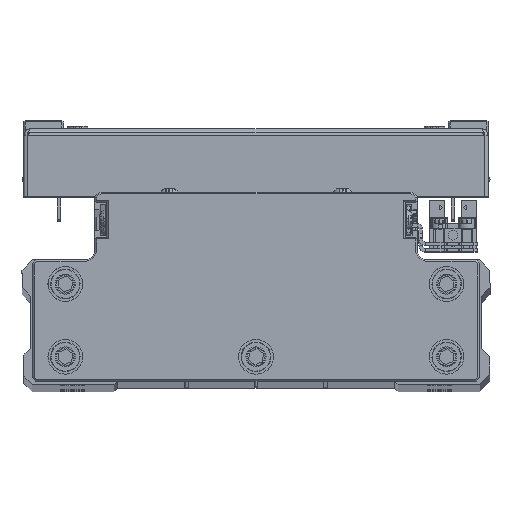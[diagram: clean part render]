
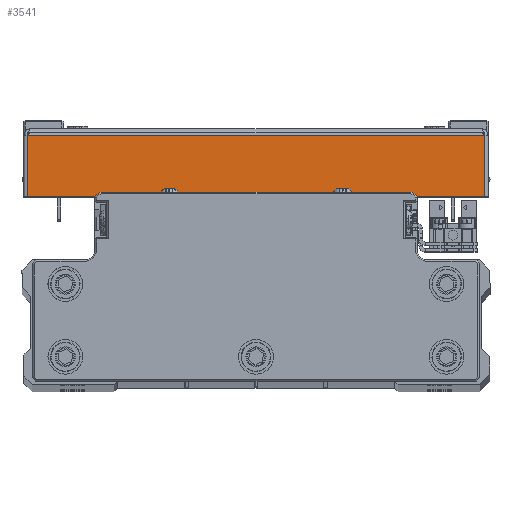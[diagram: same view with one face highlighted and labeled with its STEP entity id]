
A CAD part, top view. The second image highlights one B-rep face of the part: STEP entity #3541.
In plain terms, the highlighted planar face has unit normal (0, 0, 1) as drawn and (1, 0, 0) by its records, which use the part's own axes.
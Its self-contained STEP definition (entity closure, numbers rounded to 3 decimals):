
#788 = VERTEX_POINT ( 'NONE', #17855 ) ;
#1220 = EDGE_CURVE ( 'NONE', #35216, #788, #14770, .T. ) ;
#2210 = LINE ( 'NONE', #16131, #43813 ) ;
#3541 = ADVANCED_FACE ( 'NONE', ( #30365 ), #44288, .F. ) ;
#3700 = CARTESIAN_POINT ( 'NONE',  ( 100., 1., 65.929 ) ) ;
#5599 = ORIENTED_EDGE ( 'NONE', *, *, #6635, .F. ) ;
#6635 = EDGE_CURVE ( 'NONE', #35216, #25040, #2210, .T. ) ;
#8226 = VECTOR ( 'NONE', #36040, 1000. ) ;
#11672 = LINE ( 'NONE', #22147, #8226 ) ;
#13033 = CARTESIAN_POINT ( 'NONE',  ( 100., 0., 0. ) ) ;
#13299 = CARTESIAN_POINT ( 'NONE',  ( 100., 1., -65.929 ) ) ;
#14770 = LINE ( 'NONE', #28687, #24293 ) ;
#16131 = CARTESIAN_POINT ( 'NONE',  ( 100., 1., 67. ) ) ;
#16837 = LINE ( 'NONE', #30743, #42549 ) ;
#17855 = CARTESIAN_POINT ( 'NONE',  ( 100., 18.5, -65.929 ) ) ;
#18414 = ORIENTED_EDGE ( 'NONE', *, *, #1220, .T. ) ;
#22147 = CARTESIAN_POINT ( 'NONE',  ( 100., 18.5, 0. ) ) ;
#24293 = VECTOR ( 'NONE', #42606, 1000. ) ;
#25040 = VERTEX_POINT ( 'NONE', #3700 ) ;
#26944 = DIRECTION ( 'NONE',  ( -1., 0., 0. ) ) ;
#28687 = CARTESIAN_POINT ( 'NONE',  ( 100., 0., -65.929 ) ) ;
#30038 = DIRECTION ( 'NONE',  ( 0., 0., 1. ) ) ;
#30365 = FACE_OUTER_BOUND ( 'NONE', #37439, .T. ) ;
#30743 = CARTESIAN_POINT ( 'NONE',  ( 100., 0., 65.929 ) ) ;
#31220 = AXIS2_PLACEMENT_3D ( 'NONE', #13033, #26944, #40854 ) ;
#32510 = EDGE_CURVE ( 'NONE', #788, #42635, #11672, .T. ) ;
#35216 = VERTEX_POINT ( 'NONE', #13299 ) ;
#36040 = DIRECTION ( 'NONE',  ( 0., 0., 1. ) ) ;
#37439 = EDGE_LOOP ( 'NONE', ( #5599, #18414, #44502, #43954 ) ) ;
#37701 = CARTESIAN_POINT ( 'NONE',  ( 100., 18.5, 65.929 ) ) ;
#40854 = DIRECTION ( 'NONE',  ( 0., -1., 0. ) ) ;
#42549 = VECTOR ( 'NONE', #44677, 1000. ) ;
#42606 = DIRECTION ( 'NONE',  ( 0., 1., 0. ) ) ;
#42635 = VERTEX_POINT ( 'NONE', #37701 ) ;
#42988 = EDGE_CURVE ( 'NONE', #25040, #42635, #16837, .T. ) ;
#43813 = VECTOR ( 'NONE', #30038, 1000. ) ;
#43954 = ORIENTED_EDGE ( 'NONE', *, *, #42988, .F. ) ;
#44288 = PLANE ( 'NONE',  #31220 ) ;
#44502 = ORIENTED_EDGE ( 'NONE', *, *, #32510, .T. ) ;
#44677 = DIRECTION ( 'NONE',  ( 0., 1., 0. ) ) ;
